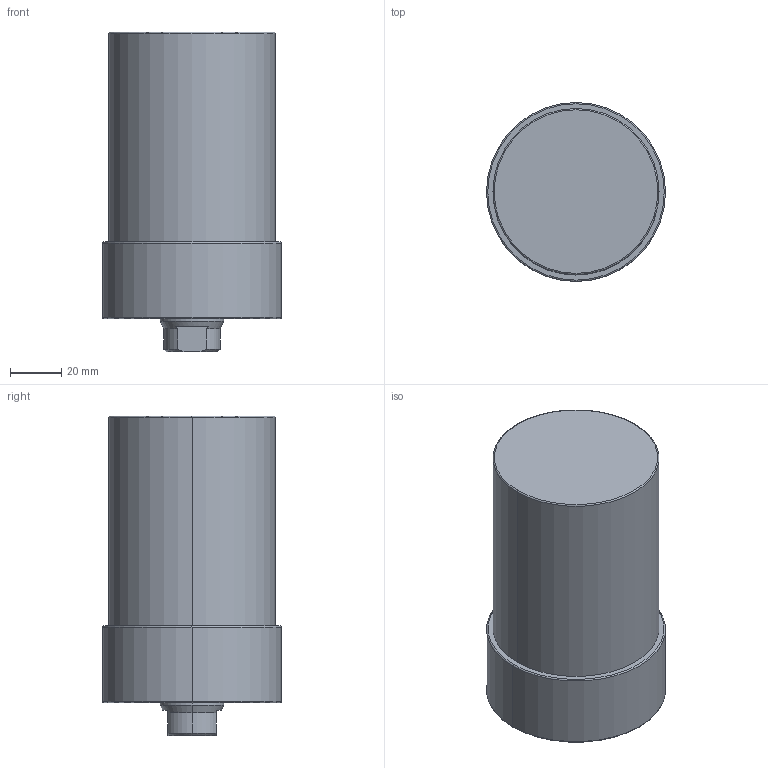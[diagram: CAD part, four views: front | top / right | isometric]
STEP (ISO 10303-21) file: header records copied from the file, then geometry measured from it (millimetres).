
FILE_DESCRIPTION (( 'STEP AP203' ), '1' );
FILE_NAME ('CLLU-065GA-065.STEP', '2020-01-06T08:19:06', ( '' ), ( '' ), 'SwSTEP 2.0', 'SolidWorks 2015', '' );
FILE_SCHEMA (( 'CONFIG_CONTROL_DESIGN' ));
Length unit declared in the file: millimetre
Products named in the file (1): CLLU-065GA-065
Bounding box: 70 x 70 x 125 mm (x, y, z)
Volume: 388092 mm3; surface area: 33908.5 mm2
Topology: 1 solids, 1 shells, 64 faces, 145 edges, 82 vertices
Faces by surface type: cone 25, cylinder 23, plane 10, torus 6
Entity records: 1811 total; most frequent: DIRECTION 332, CARTESIAN_POINT 310, ORIENTED_EDGE 270, AXIS2_PLACEMENT_3D 140, EDGE_CURVE 135, VERTEX_POINT 82, CIRCLE 75, EDGE_LOOP 73
